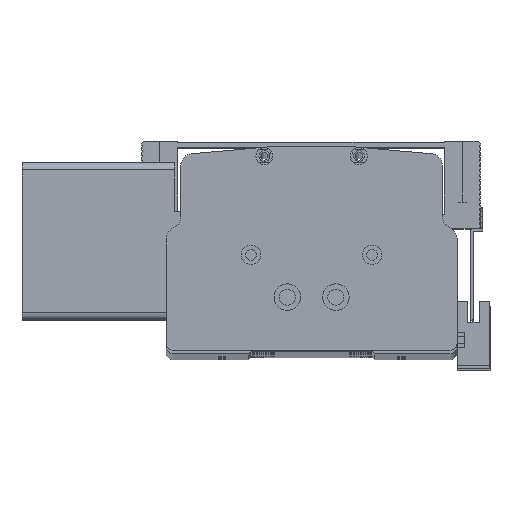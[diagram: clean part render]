
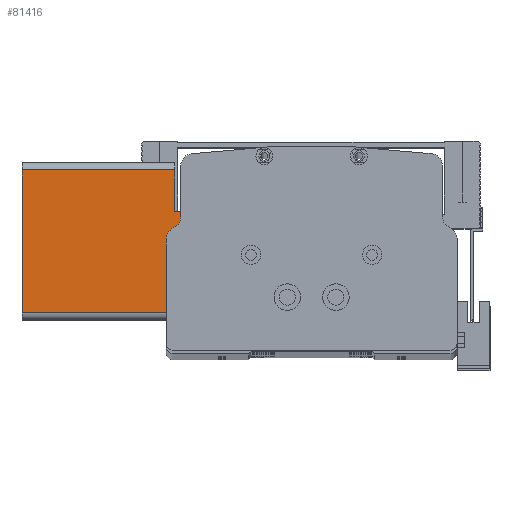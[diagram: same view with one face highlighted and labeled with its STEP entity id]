
A CAD part, top view. The second image highlights one B-rep face of the part: STEP entity #81416.
In plain terms, the highlighted planar face has unit normal (0, 0, 1) as drawn and (-1, 0, 0) by its records, which use the part's own axes.
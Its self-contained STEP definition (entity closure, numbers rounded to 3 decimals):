
#992 = VECTOR ( 'NONE', #75035, 1000. ) ;
#2555 = EDGE_CURVE ( 'NONE', #76956, #106826, #105998, .T. ) ;
#3472 = ORIENTED_EDGE ( 'NONE', *, *, #56966, .F. ) ;
#5499 = VERTEX_POINT ( 'NONE', #139539 ) ;
#6503 = DIRECTION ( 'NONE',  ( 0., -1., 0. ) ) ;
#8311 = PLANE ( 'NONE',  #12214 ) ;
#12214 = AXIS2_PLACEMENT_3D ( 'NONE', #139645, #85042, #19302 ) ;
#12758 = CARTESIAN_POINT ( 'NONE',  ( 0., 62., 87. ) ) ;
#13053 = EDGE_CURVE ( 'NONE', #5499, #131385, #44432, .T. ) ;
#15302 = VECTOR ( 'NONE', #6503, 1000. ) ;
#16089 = LINE ( 'NONE', #120508, #100144 ) ;
#18554 = VECTOR ( 'NONE', #111271, 1000. ) ;
#19302 = DIRECTION ( 'NONE',  ( 0., 0., -1. ) ) ;
#21439 = CARTESIAN_POINT ( 'NONE',  ( 0., 62., 87. ) ) ;
#21865 = ORIENTED_EDGE ( 'NONE', *, *, #137967, .T. ) ;
#23086 = CARTESIAN_POINT ( 'NONE',  ( 0., 3., 87. ) ) ;
#27187 = CARTESIAN_POINT ( 'NONE',  ( 0., 0., 0. ) ) ;
#29464 = VECTOR ( 'NONE', #84699, 1000. ) ;
#30014 = CARTESIAN_POINT ( 'NONE',  ( 0., 3., 0. ) ) ;
#31065 = ORIENTED_EDGE ( 'NONE', *, *, #32515, .F. ) ;
#32515 = EDGE_CURVE ( 'NONE', #80491, #116232, #36321, .T. ) ;
#36321 = LINE ( 'NONE', #51588, #29464 ) ;
#44432 = LINE ( 'NONE', #27187, #15302 ) ;
#51588 = CARTESIAN_POINT ( 'NONE',  ( 0., 80.26, 63. ) ) ;
#56966 = EDGE_CURVE ( 'NONE', #116232, #114424, #117543, .T. ) ;
#60960 = ORIENTED_EDGE ( 'NONE', *, *, #137284, .T. ) ;
#61348 = VERTEX_POINT ( 'NONE', #124021 ) ;
#62444 = LINE ( 'NONE', #23086, #120859 ) ;
#62565 = VECTOR ( 'NONE', #134740, 1000. ) ;
#63947 = CARTESIAN_POINT ( 'NONE',  ( 0., 62., 87. ) ) ;
#65795 = DIRECTION ( 'NONE',  ( 0., 1., 0. ) ) ;
#68112 = LINE ( 'NONE', #21439, #97329 ) ;
#68964 = CARTESIAN_POINT ( 'NONE',  ( 0., 45., 63. ) ) ;
#69620 = EDGE_CURVE ( 'NONE', #114424, #61348, #16089, .T. ) ;
#75035 = DIRECTION ( 'NONE',  ( 0., 0., -1. ) ) ;
#76956 = VERTEX_POINT ( 'NONE', #12758 ) ;
#78123 = CARTESIAN_POINT ( 'NONE',  ( 0., 0., 87. ) ) ;
#80491 = VERTEX_POINT ( 'NONE', #87760 ) ;
#81416 = ADVANCED_FACE ( 'NONE', ( #86346 ), #8311, .F. ) ;
#81861 = CARTESIAN_POINT ( 'NONE',  ( 0., 3., 87. ) ) ;
#84699 = DIRECTION ( 'NONE',  ( 0., -1., 0. ) ) ;
#85042 = DIRECTION ( 'NONE',  ( 1., 0., 0. ) ) ;
#85781 = ORIENTED_EDGE ( 'NONE', *, *, #69620, .F. ) ;
#86346 = FACE_OUTER_BOUND ( 'NONE', #103302, .T. ) ;
#87152 = DIRECTION ( 'NONE',  ( 0., 0., -1. ) ) ;
#87760 = CARTESIAN_POINT ( 'NONE',  ( 0., 62., 63. ) ) ;
#97268 = CARTESIAN_POINT ( 'NONE',  ( 0., 45., 73. ) ) ;
#97329 = VECTOR ( 'NONE', #87152, 1000. ) ;
#99761 = DIRECTION ( 'NONE',  ( 0., 0., 1. ) ) ;
#100144 = VECTOR ( 'NONE', #65795, 1000. ) ;
#100787 = ORIENTED_EDGE ( 'NONE', *, *, #117922, .T. ) ;
#100885 = ORIENTED_EDGE ( 'NONE', *, *, #2555, .F. ) ;
#103302 = EDGE_LOOP ( 'NONE', ( #3472, #31065, #100787, #115734, #60960, #100885, #21865, #85781 ) ) ;
#105998 = LINE ( 'NONE', #78123, #18554 ) ;
#106826 = VERTEX_POINT ( 'NONE', #81861 ) ;
#111271 = DIRECTION ( 'NONE',  ( 0., -1., 0. ) ) ;
#114212 = LINE ( 'NONE', #63947, #992 ) ;
#114424 = VERTEX_POINT ( 'NONE', #97268 ) ;
#115734 = ORIENTED_EDGE ( 'NONE', *, *, #13053, .T. ) ;
#116232 = VERTEX_POINT ( 'NONE', #134405 ) ;
#117543 = LINE ( 'NONE', #68964, #62565 ) ;
#117922 = EDGE_CURVE ( 'NONE', #80491, #5499, #68112, .T. ) ;
#120508 = CARTESIAN_POINT ( 'NONE',  ( 0., 80.26, 73. ) ) ;
#120859 = VECTOR ( 'NONE', #99761, 1000. ) ;
#124021 = CARTESIAN_POINT ( 'NONE',  ( 0., 62., 73. ) ) ;
#131385 = VERTEX_POINT ( 'NONE', #30014 ) ;
#134405 = CARTESIAN_POINT ( 'NONE',  ( 0., 45., 63. ) ) ;
#134740 = DIRECTION ( 'NONE',  ( 0., 0., 1. ) ) ;
#137284 = EDGE_CURVE ( 'NONE', #131385, #106826, #62444, .T. ) ;
#137967 = EDGE_CURVE ( 'NONE', #76956, #61348, #114212, .T. ) ;
#139539 = CARTESIAN_POINT ( 'NONE',  ( 0., 62., 0. ) ) ;
#139645 = CARTESIAN_POINT ( 'NONE',  ( 0., 0., 87. ) ) ;
